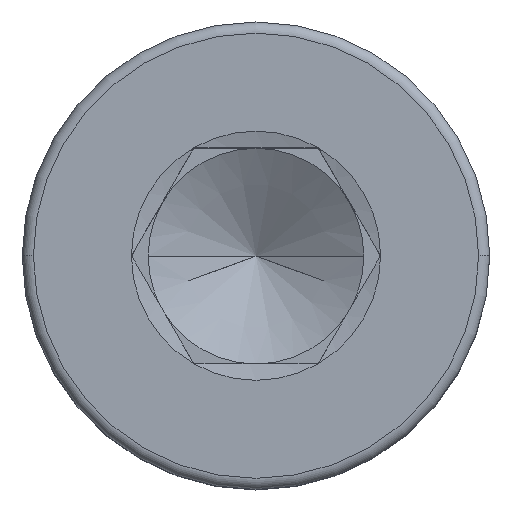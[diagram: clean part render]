
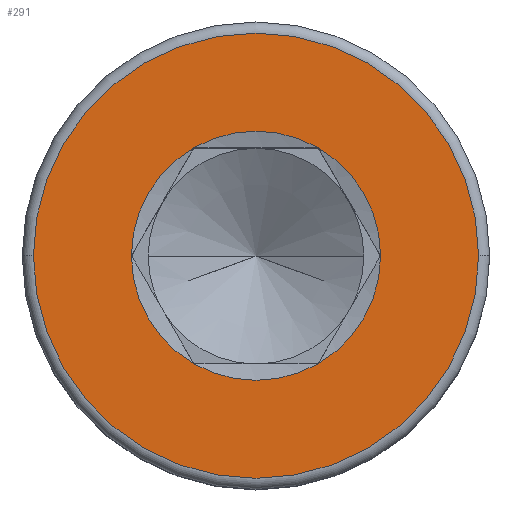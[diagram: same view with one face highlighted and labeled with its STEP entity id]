
A CAD part, top view. The second image highlights one B-rep face of the part: STEP entity #291.
In plain terms, the highlighted planar face has unit normal (0, 0, 1).
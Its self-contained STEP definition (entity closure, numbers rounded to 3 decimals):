
#48 = ORIENTED_EDGE ( 'NONE', *, *, #1090, .F. ) ;
#88 = AXIS2_PLACEMENT_3D ( 'NONE', #483, #1623, #787 ) ;
#129 = DIRECTION ( 'NONE',  ( 0., 0., 1. ) ) ;
#138 = ORIENTED_EDGE ( 'NONE', *, *, #915, .F. ) ;
#152 = DIRECTION ( 'NONE',  ( 0., 0., 1. ) ) ;
#165 = VERTEX_POINT ( 'NONE', #1658 ) ;
#168 = AXIS2_PLACEMENT_3D ( 'NONE', #379, #129, #641 ) ;
#174 = CIRCLE ( 'NONE', #1103, 3.464 ) ;
#214 = EDGE_CURVE ( 'NONE', #789, #1377, #1072, .T. ) ;
#245 = DIRECTION ( 'NONE',  ( 1., 0., 0. ) ) ;
#271 = EDGE_CURVE ( 'NONE', #682, #789, #174, .T. ) ;
#285 = CARTESIAN_POINT ( 'NONE',  ( -1.732, 3., 8. ) ) ;
#291 = ADVANCED_FACE ( 'NONE', ( #768, #1077 ), #1322, .T. ) ;
#315 = CIRCLE ( 'NONE', #462, 6.19 ) ;
#335 = CARTESIAN_POINT ( 'NONE',  ( 0., 0., 8. ) ) ;
#347 = AXIS2_PLACEMENT_3D ( 'NONE', #1387, #152, #1059 ) ;
#371 = EDGE_LOOP ( 'NONE', ( #1714, #1088 ) ) ;
#379 = CARTESIAN_POINT ( 'NONE',  ( 0., 0., 8. ) ) ;
#414 = CARTESIAN_POINT ( 'NONE',  ( 0., 0., 8. ) ) ;
#435 = AXIS2_PLACEMENT_3D ( 'NONE', #914, #1353, #1750 ) ;
#462 = AXIS2_PLACEMENT_3D ( 'NONE', #414, #1226, #651 ) ;
#483 = CARTESIAN_POINT ( 'NONE',  ( 0., 0., 8. ) ) ;
#486 = DIRECTION ( 'NONE',  ( 1., 0., 0. ) ) ;
#518 = CIRCLE ( 'NONE', #1522, 3.464 ) ;
#545 = DIRECTION ( 'NONE',  ( 0., 0., 1. ) ) ;
#605 = VERTEX_POINT ( 'NONE', #1242 ) ;
#610 = DIRECTION ( 'NONE',  ( 1., 0., 0. ) ) ;
#621 = ORIENTED_EDGE ( 'NONE', *, *, #1730, .F. ) ;
#625 = EDGE_CURVE ( 'NONE', #934, #1779, #742, .T. ) ;
#639 = EDGE_CURVE ( 'NONE', #1779, #934, #315, .T. ) ;
#641 = DIRECTION ( 'NONE',  ( 1., 0., 0. ) ) ;
#651 = DIRECTION ( 'NONE',  ( 1., 0., 0. ) ) ;
#654 = DIRECTION ( 'NONE',  ( 0., 0., 1. ) ) ;
#682 = VERTEX_POINT ( 'NONE', #1216 ) ;
#742 = CIRCLE ( 'NONE', #1321, 6.19 ) ;
#746 = CARTESIAN_POINT ( 'NONE',  ( 6.19, 0., 8. ) ) ;
#760 = CARTESIAN_POINT ( 'NONE',  ( 0., 0., 8. ) ) ;
#768 = FACE_OUTER_BOUND ( 'NONE', #371, .T. ) ;
#770 = DIRECTION ( 'NONE',  ( 0., 0., 1. ) ) ;
#787 = DIRECTION ( 'NONE',  ( 1., 0., 0. ) ) ;
#789 = VERTEX_POINT ( 'NONE', #285 ) ;
#834 = AXIS2_PLACEMENT_3D ( 'NONE', #335, #770, #610 ) ;
#895 = CIRCLE ( 'NONE', #347, 3.464 ) ;
#914 = CARTESIAN_POINT ( 'NONE',  ( 0., 0., 8. ) ) ;
#915 = EDGE_CURVE ( 'NONE', #605, #682, #518, .T. ) ;
#934 = VERTEX_POINT ( 'NONE', #746 ) ;
#974 = ORIENTED_EDGE ( 'NONE', *, *, #1490, .F. ) ;
#1059 = DIRECTION ( 'NONE',  ( 1., 0., 0. ) ) ;
#1072 = CIRCLE ( 'NONE', #88, 3.464 ) ;
#1077 = FACE_BOUND ( 'NONE', #1227, .T. ) ;
#1088 = ORIENTED_EDGE ( 'NONE', *, *, #639, .T. ) ;
#1090 = EDGE_CURVE ( 'NONE', #1589, #165, #1292, .T. ) ;
#1101 = CARTESIAN_POINT ( 'NONE',  ( 0., 0., 8. ) ) ;
#1103 = AXIS2_PLACEMENT_3D ( 'NONE', #760, #654, #245 ) ;
#1136 = CARTESIAN_POINT ( 'NONE',  ( -3.464, 0., 8. ) ) ;
#1216 = CARTESIAN_POINT ( 'NONE',  ( 1.732, 3., 8. ) ) ;
#1226 = DIRECTION ( 'NONE',  ( 0., 0., 1. ) ) ;
#1227 = EDGE_LOOP ( 'NONE', ( #138, #621, #48, #974, #1680, #1599 ) ) ;
#1242 = CARTESIAN_POINT ( 'NONE',  ( 3.464, 0., 8. ) ) ;
#1292 = CIRCLE ( 'NONE', #168, 3.464 ) ;
#1321 = AXIS2_PLACEMENT_3D ( 'NONE', #1101, #545, #1648 ) ;
#1322 = PLANE ( 'NONE',  #435 ) ;
#1353 = DIRECTION ( 'NONE',  ( 0., 0., 1. ) ) ;
#1354 = CARTESIAN_POINT ( 'NONE',  ( -1.732, -3., 8. ) ) ;
#1377 = VERTEX_POINT ( 'NONE', #1136 ) ;
#1387 = CARTESIAN_POINT ( 'NONE',  ( 0., 0., 8. ) ) ;
#1427 = CARTESIAN_POINT ( 'NONE',  ( 0., 0., 8. ) ) ;
#1461 = DIRECTION ( 'NONE',  ( 0., 0., 1. ) ) ;
#1490 = EDGE_CURVE ( 'NONE', #1377, #1589, #1533, .T. ) ;
#1522 = AXIS2_PLACEMENT_3D ( 'NONE', #1427, #1461, #486 ) ;
#1533 = CIRCLE ( 'NONE', #834, 3.464 ) ;
#1589 = VERTEX_POINT ( 'NONE', #1354 ) ;
#1599 = ORIENTED_EDGE ( 'NONE', *, *, #271, .F. ) ;
#1623 = DIRECTION ( 'NONE',  ( 0., 0., 1. ) ) ;
#1648 = DIRECTION ( 'NONE',  ( 1., 0., 0. ) ) ;
#1658 = CARTESIAN_POINT ( 'NONE',  ( 1.732, -3., 8. ) ) ;
#1680 = ORIENTED_EDGE ( 'NONE', *, *, #214, .F. ) ;
#1714 = ORIENTED_EDGE ( 'NONE', *, *, #625, .T. ) ;
#1730 = EDGE_CURVE ( 'NONE', #165, #605, #895, .T. ) ;
#1743 = CARTESIAN_POINT ( 'NONE',  ( -6.19, 0., 8. ) ) ;
#1750 = DIRECTION ( 'NONE',  ( 1., 0., 0. ) ) ;
#1779 = VERTEX_POINT ( 'NONE', #1743 ) ;
